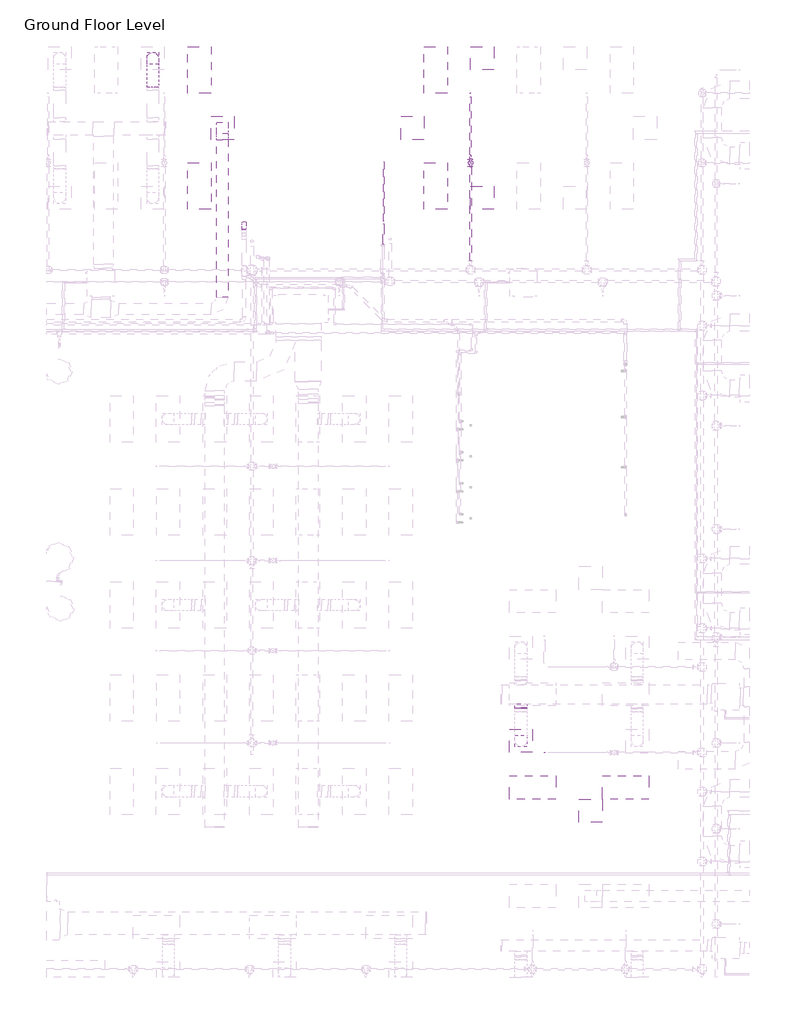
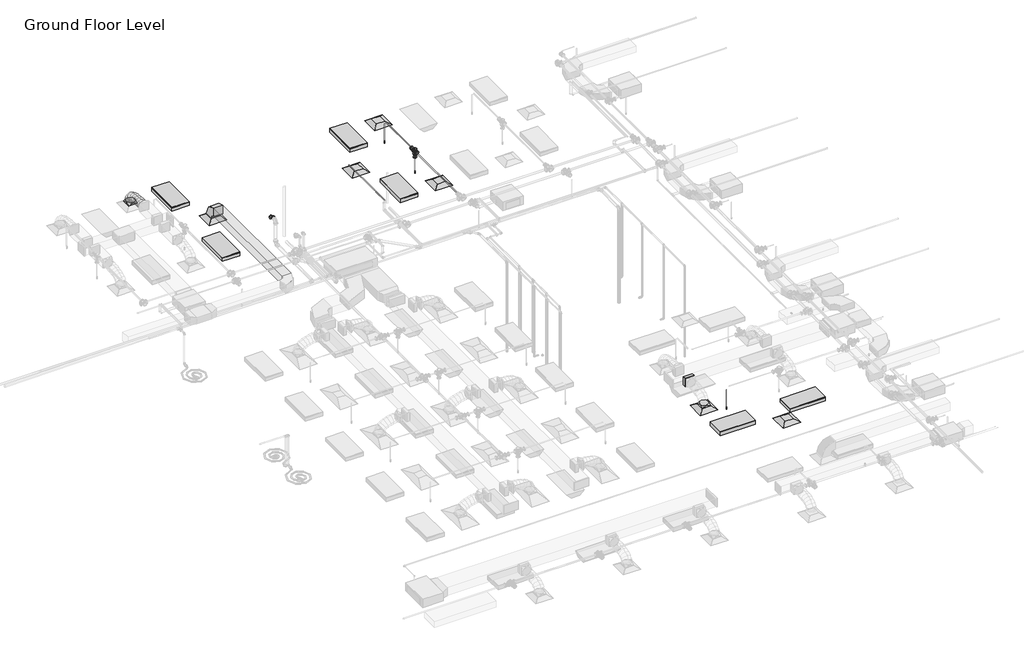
# One storey, part 58 of 73: 8 pipe segments, 6 air terminals, 6 light fixtures, 4 duct fittings, 4 duct segments, 4 pipe fittings, 3 fire suppression terminals.
"""IFC4 building model written with IfcOpenShell, lengths in millimetres."""

from ifc_helpers import new_model, si_unit, point, frame, frame_2d, origin, place, context, project, spatial, polyline, circle_curve, ellipse_curve, trimmed, segment, composite_curve, outline, extrude, transform, mapped, element, save
from ifc_brep_helpers import plane_surface, cylinder_surface, advanced_brep
from components import m_return_diffuser_600_x_600_face_300_x_300_connection_ff221211, m_rectangular_elbow_radius_1_w_618da153, m_rectangular_takeoff_standard_cb0ccb98, m_rectangular_to_round_transition_angle_45_degree_641efff0, m_sprinkler_dry_pendent_hosted_15_mm_dry_pendent_9bda8e11, m_troffer_light_parabolic_rectangular1_0600x1200mm_4_lamp_86473d4a, m_bend_pvc_sch_40_dwv_standard_97688ec5, m_reducer_flanged_cs_class_150_standard_d42b2106, m_tee_round_base_flanged_cs_class_150_standard_7e5987a1

model = new_model("IFC4")

# Units and contexts
model_context = context("Model", 3, world=origin())
ifc_project = project(units=[si_unit("LENGTHUNIT", "METRE", prefix="MILLI")], contexts=[model_context])

# Site, building, storey
site = spatial("IfcSite", under=ifc_project)
building = spatial("IfcBuilding", under=site)
storey = spatial("IfcBuildingStorey", under=building, Name="Ground Floor Level", Elevation=900.0)

# Air terminals
placement = place(None, origin())
m_return_diffuser_600_x_600_face_300_x_300_connection_shape = m_return_diffuser_600_x_600_face_300_x_300_connection_ff221211(model_context)
element("IfcAirTerminal", 1, ObjectType="M_Return Diffuser : 600 x 600 Face 300 x 300 Connection", at=placement, inside=storey, context=model_context, shape_type="MappedRepresentation", body=[
    mapped(m_return_diffuser_600_x_600_face_300_x_300_connection_shape, transform((-6737.2327605, 18735.2153534, 3650.0), x_axis=(1.0, 0.0, 0.0), y_axis=(0.0, 1.0, 0.0), z_axis=(0.0, 0.0, 1.0))),
])
element("IfcAirTerminal", 2, ObjectType="M_Return Diffuser : 600 x 600 Face 300 x 300 Connection", at=placement, inside=storey, context=model_context, shape_type="MappedRepresentation", body=[
    mapped(m_return_diffuser_600_x_600_face_300_x_300_connection_shape, transform((2762.7672395, 1135.2153534, 3650.0), x_axis=(1.0, 0.0, 0.0), y_axis=(0.0, 1.0, 0.0), z_axis=(0.0, 0.0, 1.0))),
])
element("IfcAirTerminal", 3, ObjectType="M_Return Diffuser : 600 x 600 Face 300 x 300 Connection", at=placement, inside=storey, context=model_context, shape_type="MappedRepresentation", body=[
    mapped(m_return_diffuser_600_x_600_face_300_x_300_connection_shape, transform((-1837.2327605, 18735.2153534, 3650.0), x_axis=(1.0, 0.0, 0.0), y_axis=(0.0, 1.0, 0.0), z_axis=(0.0, 0.0, 1.0))),
])
element("IfcAirTerminal", 4, ObjectType="M_Supply Diffuser : 600 x 600 Face 300 x 300 Connection", at=placement, inside=storey, context=model_context, shape_type="MappedRepresentation", body=[
    mapped(m_return_diffuser_600_x_600_face_300_x_300_connection_shape, transform((962.7672395, 2935.2153534, 3650.0), x_axis=(1.0, 0.0, 0.0), y_axis=(0.0, 1.0, 0.0), z_axis=(0.0, 0.0, 1.0))),
])
element("IfcAirTerminal", 5, ObjectType="M_Supply Diffuser : 600 x 600 Face 300 x 300 Connection", at=placement, inside=storey, context=model_context, shape_type="MappedRepresentation", body=[
    mapped(m_return_diffuser_600_x_600_face_300_x_300_connection_shape, transform((-37.2327605, 20535.2153534, 3650.0), x_axis=(1.0, 0.0, 0.0), y_axis=(0.0, 1.0, 0.0), z_axis=(0.0, 0.0, 1.0))),
])
element("IfcAirTerminal", 6, ObjectType="M_Supply Diffuser : 600 x 600 Face 300 x 300 Connection", at=placement, inside=storey, context=model_context, shape_type="MappedRepresentation", body=[
    mapped(m_return_diffuser_600_x_600_face_300_x_300_connection_shape, transform((-37.2327605, 16935.2153534, 3650.0), x_axis=(1.0, 0.0, 0.0), y_axis=(0.0, 1.0, 0.0), z_axis=(0.0, 0.0, 1.0))),
])

# Duct fittings
m_rectangular_elbow_radius_1_w_shape = m_rectangular_elbow_radius_1_w_618da153(model_context)
element("IfcDuctFitting", 7, ObjectType="M_Rectangular Elbow - Radius : 1 W", at=placement, inside=storey, context=model_context, shape_type="MappedRepresentation", body=[
    mapped(m_rectangular_elbow_radius_1_w_shape, transform((-6737.2327605, 18735.2153534, 4075.2872564), x_axis=(0.0, 0.0, 1.0), y_axis=(0.0, -1.0, 0.0), z_axis=(1.0, 0.0, 0.0))),
])
m_rectangular_takeoff_standard_shape = m_rectangular_takeoff_standard_cb0ccb98(model_context)
element("IfcDuctFitting", 8, ObjectType="M_Rectangular Takeoff : Standard", at=placement, inside=storey, context=model_context, shape_type="MappedRepresentation", body=[
    mapped(m_rectangular_takeoff_standard_shape, transform((962.7672395, 3885.0199167, 4099.9886676), x_axis=(0.0, -1.0, 0.0), y_axis=(-1.0, 0.0, 0.0), z_axis=(0.0, 0.0, -1.0))),
])
m_rectangular_to_round_transition_angle_45_degree_shape = m_rectangular_to_round_transition_angle_45_degree_641efff0(model_context)
element("IfcDuctFitting", 9, ObjectType="M_Rectangular to Round Transition - Angle : 45 Degree", at=placement, inside=storey, context=model_context, shape_type="MappedRepresentation", body=[
    mapped(m_rectangular_to_round_transition_angle_45_degree_shape, transform((-8537.2327605, 20535.2153534, 3751.6), x_axis=(0.0, 0.0, 1.0), y_axis=(-1.0, 0.0, 0.0), z_axis=(0.0, -1.0, 0.0))),
])
element("IfcDuctFitting", 10, ObjectType="M_Rectangular to Round Transition - Angle : 45 Degree", at=placement, inside=storey, context=model_context, shape_type="MappedRepresentation", body=[
    mapped(m_rectangular_to_round_transition_angle_45_degree_shape, transform((962.7672395, 2935.2153534, 3751.6), x_axis=(0.0, 0.0, 1.0), y_axis=(-1.0, 0.0, 0.0), z_axis=(0.0, -1.0, 0.0))),
])

# Duct segments
element("IfcDuctSegment", 11, ObjectType="Flex - Round", at=placement, inside=storey, context=model_context, shape_type="AdvancedBrep", body=[
    advanced_brep(
    [(-8387.2327605, 20535.2153534, 3826.6), (-8537.2327605, 20385.2153534, 3826.6), (-8687.2327605, 20535.2153534, 3826.6), (-8537.2327605, 20685.2153534, 3826.6), (-8387.2327605, 20535.2153534, 3857.937778), (-8537.2327605, 20385.2153534, 3832.2944744), (-8687.2327605, 20535.2153534, 3857.937778), (-8537.2327605, 20685.2153534, 3883.5810816), (-8387.2327605, 20518.1993769, 3906.2506017), (-8537.2327605, 20384.4614978, 3834.4348684), (-8687.2327605, 20518.1993769, 3906.2506017), (-8537.2327605, 20651.937256, 3978.0663351), (-8387.2327605, 20471.0153769, 3968.7112406), (-8537.2327605, 20366.8097489, 3857.8016772), (-8687.2327605, 20471.0153769, 3968.7112406), (-8537.2327605, 20575.2210049, 4079.6208039), (-8387.2327605, 20399.4592477, 4016.0697935), (-8537.2327605, 20330.5256195, 3881.8158865), (-8687.2327605, 20399.4592477, 4016.0697935), (-8537.2327605, 20468.3928758, 4150.3237004), (-8387.2327605, 20309.3268835, 4050.4141374), (-8537.2327605, 20265.7665876, 3906.4918893), (-8687.2327605, 20309.3268835, 4050.4141374), (-8537.2327605, 20352.8871794, 4194.3363855), (-8387.2327605, 20206.4141786, 4073.8321493), (-8537.2327605, 20179.8536975, 3926.0415559), (-8687.2327605, 20206.4141786, 4073.8321493), (-8537.2327605, 20232.9746597, 4221.6227426), (-8387.2327605, 20096.5170273, 4088.411706), (-8537.2327605, 20081.3665099, 3939.1074046), (-8687.2327605, 20096.5170273, 4088.411706), (-8537.2327605, 20111.6675446, 4237.7160075), (-8387.2327605, 19985.4313238, 4096.2406846), (-8537.2327605, 19977.9262951, 3946.3975526), (-8687.2327605, 19985.4313238, 4096.2406846), (-8537.2327605, 19992.9363525, 4246.0838166), (-8387.2327605, 19878.9529624, 4099.406962), (-8537.2327605, 19876.2616453, 3949.4206879), (-8687.2327605, 19878.9529624, 4099.406962), (-8537.2327605, 19881.6442795, 4249.3932362), (-8387.2327605, 19782.8778373, 4099.9984152), (-8537.2327605, 19783.8012427, 4249.9955729), (-8687.2327605, 19782.8778373, 4099.9984152), (-8537.2327605, 19781.9544319, 3950.0012575)],
    [
        (0, 1, circle_curve(frame((-8537.2327605, 20535.2153534, 3826.6), z_axis=(0.0, 0.0, -1.0), x_axis=(1.0, 0.0, 0.0)), 150.0)),
        (1, 2, circle_curve(frame((-8537.2327605, 20535.2153534, 3826.6), z_axis=(0.0, 0.0, -1.0), x_axis=(1.0, 0.0, 0.0)), 150.0)),
        (2, 3, circle_curve(frame((-8537.2327605, 20535.2153534, 3826.6), z_axis=(0.0, 0.0, -1.0), x_axis=(1.0, 0.0, 0.0)), 150.0)),
        (3, 0, circle_curve(frame((-8537.2327605, 20535.2153534, 3826.6), z_axis=(0.0, 0.0, -1.0), x_axis=(1.0, 0.0, 0.0)), 150.0)),
        (0, 4),
        (4, 5, ellipse_curve(frame((-8537.2327605, 20535.2153534, 3857.937778), z_axis=(0.0, 0.16851066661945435, -0.985699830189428), x_axis=(0.0, -0.985699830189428, -0.16851066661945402)), 152.1761447, 150.0)),
        (5, 1),
        (5, 6, ellipse_curve(frame((-8537.2327605, 20535.2153534, 3857.937778), z_axis=(0.0, 0.16851066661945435, -0.985699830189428), x_axis=(0.0, -0.985699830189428, -0.16851066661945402)), 152.1761447, 150.0)),
        (6, 2),
        (6, 7, ellipse_curve(frame((-8537.2327605, 20535.2153534, 3857.937778), z_axis=(0.0, 0.16851066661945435, -0.985699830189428), x_axis=(0.0, -0.985699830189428, -0.16851066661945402)), 152.1761447, 150.0)),
        (7, 3),
        (7, 4, ellipse_curve(frame((-8537.2327605, 20535.2153534, 3857.937778), z_axis=(0.0, 0.16851066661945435, -0.985699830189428), x_axis=(0.0, -0.985699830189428, -0.16851066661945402)), 152.1761447, 150.0)),
        (4, 8),
        (8, 9, ellipse_curve(frame((-8537.2327605, 20518.1993769, 3906.2506017), z_axis=(0.0, 0.4730936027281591, -0.8810121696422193), x_axis=(0.0, -0.8810121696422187, -0.4730936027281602)), 151.8002631, 150.0)),
        (9, 5),
        (9, 10, ellipse_curve(frame((-8537.2327605, 20518.1993769, 3906.2506017), z_axis=(0.0, 0.4730936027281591, -0.8810121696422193), x_axis=(0.0, -0.8810121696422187, -0.4730936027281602)), 151.8002631, 150.0)),
        (10, 6),
        (10, 11, ellipse_curve(frame((-8537.2327605, 20518.1993769, 3906.2506017), z_axis=(0.0, 0.4730936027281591, -0.8810121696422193), x_axis=(0.0, -0.8810121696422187, -0.4730936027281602)), 151.8002631, 150.0)),
        (11, 7),
        (11, 8, ellipse_curve(frame((-8537.2327605, 20518.1993769, 3906.2506017), z_axis=(0.0, 0.4730936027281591, -0.8810121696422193), x_axis=(0.0, -0.8810121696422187, -0.4730936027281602)), 151.8002631, 150.0)),
        (8, 12),
        (12, 13, ellipse_curve(frame((-8537.2327605, 20471.0153769, 3968.7112406), z_axis=(0.0, 0.7287895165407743, -0.6847377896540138), x_axis=(0.0, -0.6847377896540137, -0.7287895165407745)), 152.1832584, 150.0)),
        (13, 9),
        (13, 14, ellipse_curve(frame((-8537.2327605, 20471.0153769, 3968.7112406), z_axis=(0.0, 0.7287895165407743, -0.6847377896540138), x_axis=(0.0, -0.6847377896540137, -0.7287895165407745)), 152.1832584, 150.0)),
        (14, 10),
        (14, 15, ellipse_curve(frame((-8537.2327605, 20471.0153769, 3968.7112406), z_axis=(0.0, 0.7287895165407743, -0.6847377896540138), x_axis=(0.0, -0.6847377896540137, -0.7287895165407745)), 152.1832584, 150.0)),
        (15, 11),
        (15, 12, ellipse_curve(frame((-8537.2327605, 20471.0153769, 3968.7112406), z_axis=(0.0, 0.7287895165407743, -0.6847377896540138), x_axis=(0.0, -0.6847377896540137, -0.7287895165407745)), 152.1832584, 150.0)),
        (12, 16),
        (16, 17, ellipse_curve(frame((-8537.2327605, 20399.4592477, 4016.0697935), z_axis=(0.0, 0.8895873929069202, -0.4567650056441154), x_axis=(0.0, -0.4567650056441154, -0.8895873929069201)), 150.9170521, 150.0)),
        (17, 13),
        (17, 18, ellipse_curve(frame((-8537.2327605, 20399.4592477, 4016.0697935), z_axis=(0.0, 0.8895873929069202, -0.4567650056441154), x_axis=(0.0, -0.4567650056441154, -0.8895873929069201)), 150.9170521, 150.0)),
        (18, 14),
        (18, 19, ellipse_curve(frame((-8537.2327605, 20399.4592477, 4016.0697935), z_axis=(0.0, 0.8895873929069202, -0.4567650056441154), x_axis=(0.0, -0.4567650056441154, -0.8895873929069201)), 150.9170521, 150.0)),
        (19, 15),
        (19, 16, ellipse_curve(frame((-8537.2327605, 20399.4592477, 4016.0697935), z_axis=(0.0, 0.8895873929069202, -0.4567650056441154), x_axis=(0.0, -0.4567650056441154, -0.8895873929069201)), 150.9170521, 150.0)),
        (16, 20),
        (20, 21, ellipse_curve(frame((-8537.2327605, 20309.3268835, 4050.4141374), z_axis=(0.0, 0.9571212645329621, -0.2896875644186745), x_axis=(0.0, -0.28968756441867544, -0.9571212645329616)), 150.3699202, 150.0)),
        (21, 17),
        (21, 22, ellipse_curve(frame((-8537.2327605, 20309.3268835, 4050.4141374), z_axis=(0.0, 0.9571212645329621, -0.2896875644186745), x_axis=(0.0, -0.28968756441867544, -0.9571212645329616)), 150.3699202, 150.0)),
        (22, 18),
        (22, 23, ellipse_curve(frame((-8537.2327605, 20309.3268835, 4050.4141374), z_axis=(0.0, 0.9571212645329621, -0.2896875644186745), x_axis=(0.0, -0.28968756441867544, -0.9571212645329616)), 150.3699202, 150.0)),
        (23, 19),
        (23, 20, ellipse_curve(frame((-8537.2327605, 20309.3268835, 4050.4141374), z_axis=(0.0, 0.9571212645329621, -0.2896875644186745), x_axis=(0.0, -0.28968756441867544, -0.9571212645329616)), 150.3699202, 150.0)),
        (20, 24),
        (24, 25, ellipse_curve(frame((-8537.2327605, 20206.4141786, 4073.8321493), z_axis=(0.0, 0.9842318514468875, -0.17688318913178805), x_axis=(0.0, -0.17688318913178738, -0.9842318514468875)), 150.1583119, 150.0)),
        (25, 21),
        (25, 26, ellipse_curve(frame((-8537.2327605, 20206.4141786, 4073.8321493), z_axis=(0.0, 0.9842318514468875, -0.17688318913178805), x_axis=(0.0, -0.17688318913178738, -0.9842318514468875)), 150.1583119, 150.0)),
        (26, 22),
        (26, 27, ellipse_curve(frame((-8537.2327605, 20206.4141786, 4073.8321493), z_axis=(0.0, 0.9842318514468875, -0.17688318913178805), x_axis=(0.0, -0.17688318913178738, -0.9842318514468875)), 150.1583119, 150.0)),
        (27, 23),
        (27, 24, ellipse_curve(frame((-8537.2327605, 20206.4141786, 4073.8321493), z_axis=(0.0, 0.9842318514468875, -0.17688318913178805), x_axis=(0.0, -0.17688318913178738, -0.9842318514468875)), 150.1583119, 150.0)),
        (24, 28),
        (28, 29, ellipse_curve(frame((-8537.2327605, 20096.5170273, 4088.411706), z_axis=(0.0, 0.9948909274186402, -0.10095564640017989), x_axis=(0.0, -0.10095564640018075, -0.99489092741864)), 150.0710252, 150.0)),
        (29, 25),
        (29, 30, ellipse_curve(frame((-8537.2327605, 20096.5170273, 4088.411706), z_axis=(0.0, 0.9948909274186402, -0.10095564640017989), x_axis=(0.0, -0.10095564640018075, -0.99489092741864)), 150.0710252, 150.0)),
        (30, 26),
        (30, 31, ellipse_curve(frame((-8537.2327605, 20096.5170273, 4088.411706), z_axis=(0.0, 0.9948909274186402, -0.10095564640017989), x_axis=(0.0, -0.10095564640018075, -0.99489092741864)), 150.0710252, 150.0)),
        (31, 27),
        (31, 28, ellipse_curve(frame((-8537.2327605, 20096.5170273, 4088.411706), z_axis=(0.0, 0.9948909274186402, -0.10095564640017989), x_axis=(0.0, -0.10095564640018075, -0.99489092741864)), 150.0710252, 150.0)),
        (28, 32),
        (32, 33, ellipse_curve(frame((-8537.2327605, 19985.4313238, 4096.2406846), z_axis=(0.0, 0.9987480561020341, -0.05002319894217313), x_axis=(0.0, -0.050023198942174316, -0.9987480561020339)), 150.0309623, 150.0)),
        (33, 29),
        (33, 34, ellipse_curve(frame((-8537.2327605, 19985.4313238, 4096.2406846), z_axis=(0.0, 0.9987480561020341, -0.05002319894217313), x_axis=(0.0, -0.050023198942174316, -0.9987480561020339)), 150.0309623, 150.0)),
        (34, 30),
        (34, 35, ellipse_curve(frame((-8537.2327605, 19985.4313238, 4096.2406846), z_axis=(0.0, 0.9987480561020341, -0.05002319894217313), x_axis=(0.0, -0.050023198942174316, -0.9987480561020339)), 150.0309623, 150.0)),
        (35, 31),
        (35, 32, ellipse_curve(frame((-8537.2327605, 19985.4313238, 4096.2406846), z_axis=(0.0, 0.9987480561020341, -0.05002319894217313), x_axis=(0.0, -0.050023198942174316, -0.9987480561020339)), 150.0309623, 150.0)),
        (32, 36),
        (36, 37, ellipse_curve(frame((-8537.2327605, 19878.9529624, 4099.406962), z_axis=(0.0, 0.99983904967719, -0.017940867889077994), x_axis=(0.0, -0.017940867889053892, -0.9998390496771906)), 150.0104184, 150.0)),
        (37, 33),
        (37, 38, ellipse_curve(frame((-8537.2327605, 19878.9529624, 4099.406962), z_axis=(0.0, 0.99983904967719, -0.017940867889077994), x_axis=(0.0, -0.017940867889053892, -0.9998390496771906)), 150.0104184, 150.0)),
        (38, 34),
        (38, 39, ellipse_curve(frame((-8537.2327605, 19878.9529624, 4099.406962), z_axis=(0.0, 0.99983904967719, -0.017940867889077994), x_axis=(0.0, -0.017940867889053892, -0.9998390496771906)), 150.0104184, 150.0)),
        (39, 35),
        (39, 36, ellipse_curve(frame((-8537.2327605, 19878.9529624, 4099.406962), z_axis=(0.0, 0.99983904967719, -0.017940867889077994), x_axis=(0.0, -0.017940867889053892, -0.9998390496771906)), 150.0104184, 150.0)),
        (40, 41, circle_curve(frame((-8537.2327605, 19782.8778373, 4099.9984152), z_axis=(0.0, -0.9999810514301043, 0.006156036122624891), x_axis=(1.0, 0.0, 0.0)), 150.0)),
        (41, 42, circle_curve(frame((-8537.2327605, 19782.8778373, 4099.9984152), z_axis=(0.0, -0.9999810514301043, 0.006156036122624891), x_axis=(1.0, 0.0, 0.0)), 150.0)),
        (42, 43, circle_curve(frame((-8537.2327605, 19782.8778373, 4099.9984152), z_axis=(0.0, -0.9999810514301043, 0.006156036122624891), x_axis=(1.0, 0.0, 0.0)), 150.0)),
        (43, 40, circle_curve(frame((-8537.2327605, 19782.8778373, 4099.9984152), z_axis=(0.0, -0.9999810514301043, 0.006156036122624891), x_axis=(1.0, 0.0, 0.0)), 150.0)),
        (36, 40),
        (43, 37),
        (42, 38),
        (41, 39),
    ],
    [
        plane_surface(frame((-8537.2327605, 20385.2153534, 3826.6), z_axis=(0.0, 0.0, -1.0), x_axis=(1.0, 0.0, 0.0))),
        cylinder_surface(frame((-8537.2327605, 20535.2153534, 3826.6), z_axis=(0.0, 0.0, -1.0), x_axis=(1.0, 0.0, 0.0)), 150.0),
        cylinder_surface(frame((-8537.2327605, 20535.2153534, 3857.937778), z_axis=(0.0, 0.3322018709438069, -0.9432083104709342), x_axis=(1.0, 0.0, 0.0)), 150.0),
        cylinder_surface(frame((-8537.2327605, 20518.1993769, 3906.2506017), z_axis=(0.0, 0.6027641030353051, -0.7979194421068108), x_axis=(1.0, 0.0, 0.0)), 150.0),
        cylinder_surface(frame((-8537.2327605, 20471.0153769, 3968.7112406), z_axis=(0.0, 0.8339041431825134, -0.5519093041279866), x_axis=(1.0, 0.0, 0.0)), 150.0),
        cylinder_surface(frame((-8537.2327605, 20399.4592477, 4016.0697935), z_axis=(0.0, 0.9344594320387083, -0.3560696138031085), x_axis=(1.0, 0.0, 0.0)), 150.0),
        cylinder_surface(frame((-8537.2327605, 20309.3268835, 4050.4141374), z_axis=(0.0, 0.9750739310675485, -0.22188021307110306), x_axis=(1.0, 0.0, 0.0)), 150.0),
        cylinder_surface(frame((-8537.2327605, 20206.4141786, 4073.8321493), z_axis=(0.0, 0.9913144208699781, -0.13151318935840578), x_axis=(1.0, 0.0, 0.0)), 150.0),
        cylinder_surface(frame((-8537.2327605, 20096.5170273, 4088.411706), z_axis=(0.0, 0.9975257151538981, -0.07030254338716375), x_axis=(1.0, 0.0, 0.0)), 150.0),
        cylinder_surface(frame((-8537.2327605, 19985.4313238, 4096.2406846), z_axis=(0.0, 0.9995581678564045, -0.029723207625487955), x_axis=(1.0, 0.0, 0.0)), 150.0),
        plane_surface(frame((-8537.2327605, 19781.9544319, 3950.0012575), z_axis=(0.0, -0.9999810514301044, 0.006156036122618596), x_axis=(1.0, 0.0, 0.0))),
        cylinder_surface(frame((-8537.2327605, 19878.9529624, 4099.406962), z_axis=(0.0, 0.9999810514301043, -0.006156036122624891), x_axis=(1.0, 0.0, 0.0)), 150.0),
    ],
    [
        (0, [[1, 2, 3, 4]]),
        (1, [[-1, 5, 6, 7]]),
        (1, [[-2, -7, 8, 9]]),
        (1, [[-3, -9, 10, 11]]),
        (1, [[-4, -11, 12, -5]]),
        (2, [[-6, 13, 14, 15]]),
        (2, [[-8, -15, 16, 17]]),
        (2, [[-10, -17, 18, 19]]),
        (2, [[-12, -19, 20, -13]]),
        (3, [[-14, 21, 22, 23]]),
        (3, [[-16, -23, 24, 25]]),
        (3, [[-18, -25, 26, 27]]),
        (3, [[-20, -27, 28, -21]]),
        (4, [[-22, 29, 30, 31]]),
        (4, [[-24, -31, 32, 33]]),
        (4, [[-26, -33, 34, 35]]),
        (4, [[-28, -35, 36, -29]]),
        (5, [[-30, 37, 38, 39]]),
        (5, [[-32, -39, 40, 41]]),
        (5, [[-34, -41, 42, 43]]),
        (5, [[-36, -43, 44, -37]]),
        (6, [[-38, 45, 46, 47]]),
        (6, [[-40, -47, 48, 49]]),
        (6, [[-42, -49, 50, 51]]),
        (6, [[-44, -51, 52, -45]]),
        (7, [[-46, 53, 54, 55]]),
        (7, [[-48, -55, 56, 57]]),
        (7, [[-50, -57, 58, 59]]),
        (7, [[-52, -59, 60, -53]]),
        (8, [[-54, 61, 62, 63]]),
        (8, [[-56, -63, 64, 65]]),
        (8, [[-58, -65, 66, 67]]),
        (8, [[-60, -67, 68, -61]]),
        (9, [[-62, 69, 70, 71]]),
        (9, [[-64, -71, 72, 73]]),
        (9, [[-66, -73, 74, 75]]),
        (9, [[-68, -75, 76, -69]]),
        (10, [[77, 78, 79, 80]]),
        (11, [[-70, 81, -80, 82]]),
        (11, [[-72, -82, -79, 83]]),
        (11, [[-74, -83, -78, 84]]),
        (11, [[-76, -84, -77, -81]]),
    ],
),
])
element("IfcDuctSegment", 12, ObjectType="Radius Elbows / Taps", at=placement, inside=storey, context=model_context, shape_type="SweptSolid", body=[
    extrude(outline(polyline([(-6587.2327605, 14369.8153534), (-6887.2327605, 14369.8153534), (-6887.2327605, 18435.2153534), (-6587.2327605, 18435.2153534), (-6587.2327605, 14369.8153534)])), frame((0.0, 0.0, 3925.2872564), z_axis=(0.0, 0.0, 1.0), x_axis=(1.0, 0.0, 0.0)), (0.0, 0.0, 1.0), 300.0),
])
element("IfcDuctSegment", 13, ObjectType="Radius Elbows / Taps", at=placement, inside=storey, context=model_context, shape_type="SweptSolid", body=[
    extrude(outline(polyline([(-6587.2327605, 18585.2153534), (-6887.2327605, 18585.2153534), (-6887.2327605, 18885.2153534), (-6587.2327605, 18885.2153534), (-6587.2327605, 18585.2153534)])), frame((0.0, 0.0, 3751.6), z_axis=(0.0, 0.0, 1.0), x_axis=(1.0, 0.0, 0.0)), (0.0, 0.0, 1.0), 23.6872564),
])
element("IfcDuctSegment", 14, ObjectType="Radius Elbows / Taps", at=placement, inside=storey, context=model_context, shape_type="SweptSolid", body=[
    extrude(outline(polyline([(812.7672395, 3783.4199167), (1112.7672395, 3783.4199167), (1112.7672395, 3762.562617), (812.7672395, 3762.562617), (812.7672395, 3783.4199167)])), frame((0.0, 0.0, 3949.9886676), z_axis=(0.0, 0.0, 1.0), x_axis=(1.0, 0.0, 0.0)), (0.0, 0.0, 1.0), 300.0),
])

# Fire suppression terminals
m_sprinkler_dry_pendent_hosted_15_mm_dry_pendent_shape = m_sprinkler_dry_pendent_hosted_15_mm_dry_pendent_9bda8e11(model_context)
element("IfcFireSuppressionTerminal", 15, ObjectType="M_Sprinkler - Dry - Pendent - Hosted : 15 mm Dry Pendent", at=placement, inside=storey, context=model_context, shape_type="MappedRepresentation", body=[
    mapped(m_sprinkler_dry_pendent_hosted_15_mm_dry_pendent_shape, transform((-337.2327605, 19635.2153534, 3650.0), x_axis=(1.0, 0.0, 0.0), y_axis=(0.0, -1.0, 0.0), z_axis=(0.0, 0.0, -1.0))),
])
element("IfcFireSuppressionTerminal", 16, ObjectType="M_Sprinkler - Dry - Pendent - Hosted : 15 mm Dry Pendent", at=placement, inside=storey, context=model_context, shape_type="MappedRepresentation", body=[
    mapped(m_sprinkler_dry_pendent_hosted_15_mm_dry_pendent_shape, transform((-337.2327605, 17835.2153534, 3650.0), x_axis=(1.0, 0.0, 0.0), y_axis=(0.0, -1.0, 0.0), z_axis=(0.0, 0.0, -1.0))),
])
element("IfcFireSuppressionTerminal", 17, ObjectType="M_Sprinkler - Dry - Pendent - Hosted : 15 mm Dry Pendent", at=placement, inside=storey, context=model_context, shape_type="MappedRepresentation", body=[
    mapped(m_sprinkler_dry_pendent_hosted_15_mm_dry_pendent_shape, transform((1565.5763283, 2635.2153534, 3650.0), x_axis=(1.0, 0.0, 0.0), y_axis=(0.0, -1.0, 0.0), z_axis=(0.0, 0.0, -1.0))),
])

# Light fixtures
m_troffer_light_parabolic_rectangular1_0600x1200mm_4_lamp_shape = m_troffer_light_parabolic_rectangular1_0600x1200mm_4_lamp_86473d4a(model_context)
element("IfcLightFixture", 18, ObjectType="M_Troffer Light - Parabolic Rectangular1 : 0600x1200mm(4 Lamp) - 277V 2", at=placement, inside=storey, context=model_context, shape_type="MappedRepresentation", body=[
    mapped(m_troffer_light_parabolic_rectangular1_0600x1200mm_4_lamp_shape, transform((-7396.6986926, 20253.918855, 3650.0), x_axis=(0.0, 1.0, 0.0), y_axis=(-1.0, 0.0, 0.0), z_axis=(0.0, 0.0, 1.0))),
])
element("IfcLightFixture", 19, ObjectType="M_Troffer Light - Parabolic Rectangular1 : 0600x1200mm(4 Lamp) - 277V 2", at=placement, inside=storey, context=model_context, shape_type="MappedRepresentation", body=[
    mapped(m_troffer_light_parabolic_rectangular1_0600x1200mm_4_lamp_shape, transform((-7396.6986926, 17253.918855, 3650.0), x_axis=(0.0, 1.0, 0.0), y_axis=(-1.0, 0.0, 0.0), z_axis=(0.0, 0.0, 1.0))),
])
element("IfcLightFixture", 20, ObjectType="M_Troffer Light - Parabolic Rectangular1 : 0600x1200mm(4 Lamp) - 277V 2", at=placement, inside=storey, context=model_context, shape_type="MappedRepresentation", body=[
    mapped(m_troffer_light_parabolic_rectangular1_0600x1200mm_4_lamp_shape, transform((-1296.6986926, 20253.918855, 3650.0), x_axis=(0.0, 1.0, 0.0), y_axis=(-1.0, 0.0, 0.0), z_axis=(0.0, 0.0, 1.0))),
])
element("IfcLightFixture", 21, ObjectType="M_Troffer Light - Parabolic Rectangular1 : 0600x1200mm(4 Lamp) - 277V 2", at=placement, inside=storey, context=model_context, shape_type="MappedRepresentation", body=[
    mapped(m_troffer_light_parabolic_rectangular1_0600x1200mm_4_lamp_shape, transform((-1296.6986926, 17253.918855, 3650.0), x_axis=(0.0, 1.0, 0.0), y_axis=(-1.0, 0.0, 0.0), z_axis=(0.0, 0.0, 1.0))),
])
element("IfcLightFixture", 22, ObjectType="M_Troffer Light - Parabolic Rectangular1 : 0600x1200mm(4 Lamp) - 277V 2", at=placement, inside=storey, context=model_context, shape_type="MappedRepresentation", body=[
    mapped(m_troffer_light_parabolic_rectangular1_0600x1200mm_4_lamp_shape, transform((1281.4707411, 1794.6812855, 3650.0), x_axis=(1.0, 0.0, 0.0), y_axis=(0.0, 1.0, 0.0), z_axis=(0.0, 0.0, 1.0))),
])
element("IfcLightFixture", 23, ObjectType="M_Troffer Light - Parabolic Rectangular1 : 0600x1200mm(4 Lamp) - 277V 2", at=placement, inside=storey, context=model_context, shape_type="MappedRepresentation", body=[
    mapped(m_troffer_light_parabolic_rectangular1_0600x1200mm_4_lamp_shape, transform((3681.4707411, 1794.6812855, 3650.0), x_axis=(1.0, 0.0, 0.0), y_axis=(0.0, 1.0, 0.0), z_axis=(0.0, 0.0, 1.0))),
])

# Pipe fittings
m_bend_pvc_sch_40_dwv_standard_shape = m_bend_pvc_sch_40_dwv_standard_97688ec5(model_context)
element("IfcPipeFitting", 24, ObjectType="M_Bend - PVC - Sch 40 - DWV : Standard", at=placement, inside=storey, context=model_context, shape_type="MappedRepresentation", body=[
    mapped(m_bend_pvc_sch_40_dwv_standard_shape, transform((-6179.1776394, 16218.4450744, 5030.0015941), x_axis=(0.0, 0.9999500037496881, 0.009999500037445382), y_axis=(0.0, 0.009999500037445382, -0.9999500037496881), z_axis=(-1.0, 0.0, 0.0))),
])
m_reducer_flanged_cs_class_150_standard_shape = m_reducer_flanged_cs_class_150_standard_d42b2106(model_context)
element("IfcPipeFitting", 25, ObjectType="M_Reducer - Flanged - CS - Class 150 : Standard", at=placement, inside=storey, context=model_context, shape_type="MappedRepresentation", body=[
    mapped(m_reducer_flanged_cs_class_150_standard_shape, transform((-337.2327605, 17935.9239471, 4360.0), x_axis=(0.0, 1.0, 0.0), y_axis=(-1.0, 0.0, 0.0), z_axis=(0.0, 0.0, 1.0))),
])
element("IfcPipeFitting", 26, ObjectType="M_Reducer - Flanged - CS - Class 150 : Standard", at=placement, inside=storey, context=model_context, shape_type="MappedRepresentation", body=[
    mapped(m_reducer_flanged_cs_class_150_standard_shape, transform((-337.2327605, 17835.2153534, 4259.2914063), x_axis=(0.0, 0.0, -1.0), y_axis=(-1.0, 0.0, 0.0), z_axis=(0.0, 1.0, 0.0))),
])
m_tee_round_base_flanged_cs_class_150_standard_shape = m_tee_round_base_flanged_cs_class_150_standard_7e5987a1(model_context)
element("IfcPipeFitting", 27, ObjectType="M_Tee Round Base - Flanged - CS - Class 150 : Standard", at=placement, inside=storey, context=model_context, shape_type="MappedRepresentation", body=[
    mapped(m_tee_round_base_flanged_cs_class_150_standard_shape, transform((-337.2327605, 17835.2153534, 4360.0), x_axis=(0.0, 1.0, 0.0), y_axis=(0.0, 0.0, 1.0), z_axis=(1.0, 0.0, 0.0))),
])

# Pipe segments
element("IfcPipeSegment", 28, ObjectType="Copper", at=placement, inside=storey, context=model_context, shape_type="SweptSolid", body=[
    extrude(outline(composite_curve([segment(trimmed(circle_curve(frame_2d((4634.3568617, -2579.6952605)), 8.1), [point((4634.3568617, -2587.7952605))], [point((4626.2568617, -2579.6952605))], False, "CARTESIAN"), True, "CONTINUOUS"), segment(trimmed(circle_curve(frame_2d((4634.3568617, -2579.6952605)), 8.1), [point((4626.2568617, -2579.6952605))], [point((4634.3568617, -2571.5952605))], False, "CARTESIAN"), True, "CONTINUOUS"), segment(trimmed(circle_curve(frame_2d((4634.3568617, -2579.6952605)), 8.1), [point((4634.3568617, -2571.5952605))], [point((4642.4568617, -2579.6952605))], False, "CARTESIAN"), True, "CONTINUOUS"), segment(trimmed(circle_curve(frame_2d((4634.3568617, -2579.6952605)), 8.1), [point((4642.4568617, -2579.6952605))], [point((4634.3568617, -2587.7952605))], False, "CARTESIAN"), True, "CONTINUOUS")], self_intersect=False)), frame((0.0, 16328.5403578, 0.0), z_axis=(0.0, 1.0, 0.0), x_axis=(0.0, 0.0, 1.0)), (0.0, 0.0, 1.0), 1536.3864029),
])
element("IfcPipeSegment", 29, ObjectType="Copper", at=placement, inside=storey, context=model_context, shape_type="SweptSolid", body=[
    extrude(outline(composite_curve([segment(trimmed(circle_curve(frame_2d((4634.3568617, -2579.6952605)), 14.5), [point((4634.3568617, -2565.1952605))], [point((4648.8568617, -2579.6952605))], False, "CARTESIAN"), True, "CONTINUOUS"), segment(trimmed(circle_curve(frame_2d((4634.3568617, -2579.6952605)), 14.5), [point((4648.8568617, -2579.6952605))], [point((4634.3568617, -2594.1952605))], False, "CARTESIAN"), True, "CONTINUOUS"), segment(trimmed(circle_curve(frame_2d((4634.3568617, -2579.6952605)), 14.5), [point((4634.3568617, -2594.1952605))], [point((4619.8568617, -2579.6952605))], False, "CARTESIAN"), True, "CONTINUOUS"), segment(trimmed(circle_curve(frame_2d((4634.3568617, -2579.6952605)), 14.5), [point((4619.8568617, -2579.6952605))], [point((4634.3568617, -2565.1952605))], False, "CARTESIAN"), True, "CONTINUOUS")], self_intersect=False)), frame((0.0, 15738.4403534, 0.0), z_axis=(0.0, 1.0, 0.0), x_axis=(0.0, 0.0, 1.0)), (0.0, 0.0, 1.0), 525.0125044),
])
element("IfcPipeSegment", 30, ObjectType="PVC - DWV", at=placement, inside=storey, context=model_context, shape_type="SweptSolid", body=[
    extrude(outline(composite_curve([segment(trimmed(circle_curve(frame_2d((0.0, 50.8)), 50.8), [point((50.8, 50.8))], [point((0.0, 0.0))], False, "CARTESIAN"), True, "CONTINUOUS"), segment(trimmed(circle_curve(frame_2d((0.0, 50.8)), 50.8), [point((0.0, 0.0))], [point((-50.8, 50.8))], False, "CARTESIAN"), True, "CONTINUOUS"), segment(trimmed(circle_curve(frame_2d((0.0, 50.8)), 50.8), [point((-50.8, 50.8))], [point((0.0, 101.6))], False, "CARTESIAN"), True, "CONTINUOUS"), segment(trimmed(circle_curve(frame_2d((0.0, 50.8)), 50.8), [point((0.0, 101.6))], [point((50.8, 50.8))], False, "CARTESIAN"), True, "CONTINUOUS")], self_intersect=False)), frame((-6179.1776394, 16116.3721218, 5079.7834046), z_axis=(0.0, 0.9999500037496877, 0.009999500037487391), x_axis=(1.0, 0.0, 0.0)), (0.0, 0.0, 1.0), 5.0778686),
])
element("IfcPipeSegment", 31, ObjectType="Steel flanged", at=placement, inside=storey, context=model_context, shape_type="SweptSolid", body=[
    extrude(outline(composite_curve([segment(trimmed(circle_curve(frame_2d((-337.2327605, 19635.2153534)), 10.668), [point((-347.9007605, 19635.2153534))], [point((-337.2327605, 19645.8833534))], False, "CARTESIAN"), True, "CONTINUOUS"), segment(trimmed(circle_curve(frame_2d((-337.2327605, 19635.2153534)), 10.668), [point((-337.2327605, 19645.8833534))], [point((-326.5647605, 19635.2153534))], False, "CARTESIAN"), True, "CONTINUOUS"), segment(trimmed(circle_curve(frame_2d((-337.2327605, 19635.2153534)), 10.668), [point((-326.5647605, 19635.2153534))], [point((-337.2327605, 19624.5473534))], False, "CARTESIAN"), True, "CONTINUOUS"), segment(trimmed(circle_curve(frame_2d((-337.2327605, 19635.2153534)), 10.668), [point((-337.2327605, 19624.5473534))], [point((-347.9007605, 19635.2153534))], False, "CARTESIAN"), True, "CONTINUOUS")], self_intersect=False)), frame((0.0, 0.0, 3650.0), z_axis=(0.0, 0.0, 1.0), x_axis=(1.0, 0.0, 0.0)), (0.0, 0.0, 1.0), 616.9914063),
])
element("IfcPipeSegment", 32, ObjectType="Steel flanged", at=placement, inside=storey, context=model_context, shape_type="SweptSolid", body=[
    extrude(outline(composite_curve([segment(trimmed(circle_curve(frame_2d((-337.2327605, 17835.2153534)), 10.668), [point((-347.9007605, 17835.2153534))], [point((-337.2327605, 17845.8833534))], False, "CARTESIAN"), True, "CONTINUOUS"), segment(trimmed(circle_curve(frame_2d((-337.2327605, 17835.2153534)), 10.668), [point((-337.2327605, 17845.8833534))], [point((-326.5647605, 17835.2153534))], False, "CARTESIAN"), True, "CONTINUOUS"), segment(trimmed(circle_curve(frame_2d((-337.2327605, 17835.2153534)), 10.668), [point((-326.5647605, 17835.2153534))], [point((-337.2327605, 17824.5473534))], False, "CARTESIAN"), True, "CONTINUOUS"), segment(trimmed(circle_curve(frame_2d((-337.2327605, 17835.2153534)), 10.668), [point((-337.2327605, 17824.5473534))], [point((-347.9007605, 17835.2153534))], False, "CARTESIAN"), True, "CONTINUOUS")], self_intersect=False)), frame((0.0, 0.0, 3650.0), z_axis=(0.0, 0.0, 1.0), x_axis=(1.0, 0.0, 0.0)), (0.0, 0.0, 1.0), 495.2914062),
])
element("IfcPipeSegment", 33, ObjectType="Steel flanged", at=placement, inside=storey, context=model_context, shape_type="SweptSolid", body=[
    extrude(outline(composite_curve([segment(trimmed(circle_curve(frame_2d((4360.0, -337.2327605)), 16.7005), [point((4360.0, -353.9332605))], [point((4343.2995, -337.2327605))], False, "CARTESIAN"), True, "CONTINUOUS"), segment(trimmed(circle_curve(frame_2d((4360.0, -337.2327605)), 16.7005), [point((4343.2995, -337.2327605))], [point((4360.0, -320.5322605))], False, "CARTESIAN"), True, "CONTINUOUS"), segment(trimmed(circle_curve(frame_2d((4360.0, -337.2327605)), 16.7005), [point((4360.0, -320.5322605))], [point((4376.7005, -337.2327605))], False, "CARTESIAN"), True, "CONTINUOUS"), segment(trimmed(circle_curve(frame_2d((4360.0, -337.2327605)), 16.7005), [point((4376.7005, -337.2327605))], [point((4360.0, -353.9332605))], False, "CARTESIAN"), True, "CONTINUOUS")], self_intersect=False)), frame((0.0, 15314.2009828, 0.0), z_axis=(0.0, 1.0, 0.0), x_axis=(0.0, 0.0, 1.0)), (0.0, 0.0, 1.0), 2420.3057768),
])
element("IfcPipeSegment", 34, ObjectType="Steel flanged", at=placement, inside=storey, context=model_context, shape_type="SweptSolid", body=[
    extrude(outline(composite_curve([segment(trimmed(circle_curve(frame_2d((4360.0, -337.2327605)), 10.668), [point((4360.0, -347.9007605))], [point((4349.332, -337.2327605))], False, "CARTESIAN"), True, "CONTINUOUS"), segment(trimmed(circle_curve(frame_2d((4360.0, -337.2327605)), 10.668), [point((4349.332, -337.2327605))], [point((4360.0, -326.5647605))], False, "CARTESIAN"), True, "CONTINUOUS"), segment(trimmed(circle_curve(frame_2d((4360.0, -337.2327605)), 10.668), [point((4360.0, -326.5647605))], [point((4370.668, -337.2327605))], False, "CARTESIAN"), True, "CONTINUOUS"), segment(trimmed(circle_curve(frame_2d((4360.0, -337.2327605)), 10.668), [point((4370.668, -337.2327605))], [point((4360.0, -347.9007605))], False, "CARTESIAN"), True, "CONTINUOUS")], self_intersect=False)), frame((0.0, 18049.9239471, 0.0), z_axis=(0.0, 1.0, 0.0), x_axis=(0.0, 0.0, 1.0)), (0.0, 0.0, 1.0), 1492.2828125),
])
element("IfcPipeSegment", 35, ObjectType="Steel flanged", at=placement, inside=storey, context=model_context, shape_type="SweptSolid", body=[
    extrude(outline(composite_curve([segment(trimmed(circle_curve(frame_2d((1565.5763283, 2635.2153534)), 10.668), [point((1554.9083283, 2635.2153534))], [point((1565.5763283, 2645.8833534))], False, "CARTESIAN"), True, "CONTINUOUS"), segment(trimmed(circle_curve(frame_2d((1565.5763283, 2635.2153534)), 10.668), [point((1565.5763283, 2645.8833534))], [point((1576.2443283, 2635.2153534))], False, "CARTESIAN"), True, "CONTINUOUS"), segment(trimmed(circle_curve(frame_2d((1565.5763283, 2635.2153534)), 10.668), [point((1576.2443283, 2635.2153534))], [point((1565.5763283, 2624.5473534))], False, "CARTESIAN"), True, "CONTINUOUS"), segment(trimmed(circle_curve(frame_2d((1565.5763283, 2635.2153534)), 10.668), [point((1565.5763283, 2624.5473534))], [point((1554.9083283, 2635.2153534))], False, "CARTESIAN"), True, "CONTINUOUS")], self_intersect=False)), frame((0.0, 0.0, 3650.0), z_axis=(0.0, 0.0, 1.0), x_axis=(1.0, 0.0, 0.0)), (0.0, 0.0, 1.0), 616.9914062),
])

save(model, "model.ifc")
